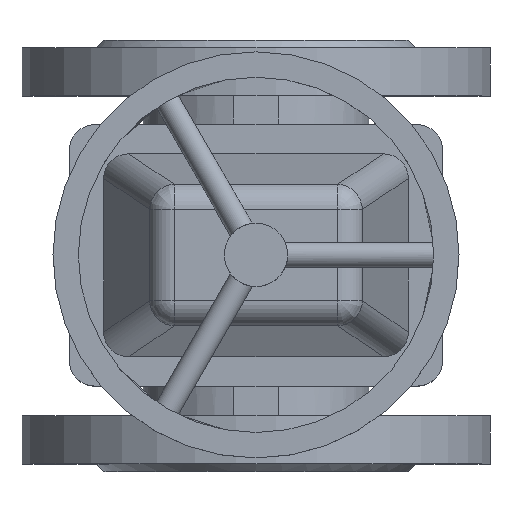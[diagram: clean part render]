
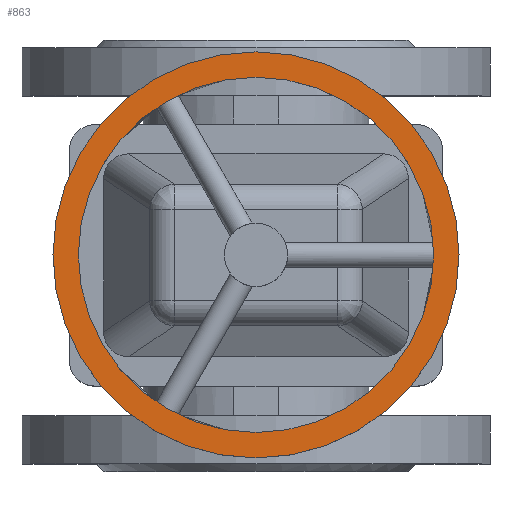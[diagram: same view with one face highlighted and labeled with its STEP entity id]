
A CAD part, top view. The second image highlights one B-rep face of the part: STEP entity #863.
In plain terms, the highlighted planar face has unit normal (0, 0, 1).
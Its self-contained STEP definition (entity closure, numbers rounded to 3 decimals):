
#863=ADVANCED_FACE('',(#1892,#1894),#1896,.T.);
#1892=FACE_BOUND('',#1893,.T.);
#1893=EDGE_LOOP('',(#2325));
#1894=FACE_BOUND('',#1895,.T.);
#1895=EDGE_LOOP('',(#2326));
#1896=PLANE('',#1897);
#1897=AXIS2_PLACEMENT_3D('',#1898,#1899,#1900);
#1898=CARTESIAN_POINT('',(0.,0.,256.5));
#1899=DIRECTION('',(0.,0.,1.));
#1900=DIRECTION('',(0.,-1.,0.));
#2325=ORIENTED_EDGE('',*,*,#2535,.T.);
#2326=ORIENTED_EDGE('',*,*,#2533,.T.);
#2533=EDGE_CURVE('',#2879,#2879,#2880,.F.);
#2535=EDGE_CURVE('',#2883,#2883,#2884,.T.);
#2879=VERTEX_POINT('',#4441);
#2880=CIRCLE('',#4442,70.);
#2883=VERTEX_POINT('',#4451);
#2884=CIRCLE('',#4452,80.);
#4441=CARTESIAN_POINT('',(0.,-70.,256.5));
#4442=AXIS2_PLACEMENT_3D('',#4443,#4444,#4445);
#4443=CARTESIAN_POINT('',(0.,0.,256.5));
#4444=DIRECTION('',(0.,0.,1.));
#4445=DIRECTION('',(0.,-1.,0.));
#4451=CARTESIAN_POINT('',(0.,-80.,256.5));
#4452=AXIS2_PLACEMENT_3D('',#4453,#4454,#4455);
#4453=CARTESIAN_POINT('',(0.,0.,256.5));
#4454=DIRECTION('',(0.,0.,1.));
#4455=DIRECTION('',(0.,-1.,0.));
